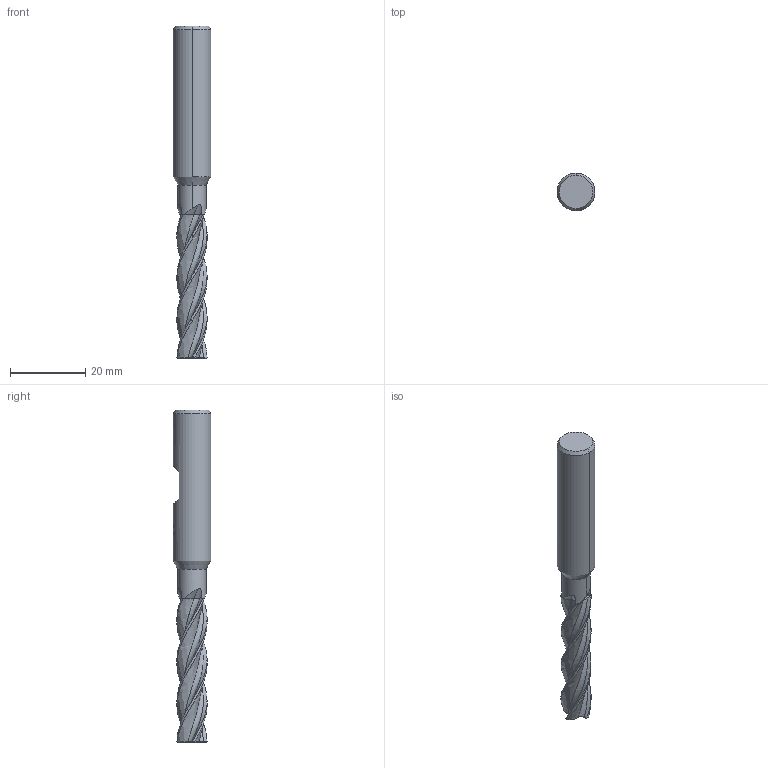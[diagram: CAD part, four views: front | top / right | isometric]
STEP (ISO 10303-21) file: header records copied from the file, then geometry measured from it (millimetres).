
FILE_DESCRIPTION(('no description'),'unknown implementation level');
FILE_NAME('solidNxIIPEa_vhJE0vrs0WZCocvBu1A_1.STP',' ',('CIMSOURCE GmbH'),('CADClick - KiM GmbH - www.kimweb.de'),'unknown preprocess','ACIS','unknown authorization');
FILE_SCHEMA(('automotive_design'));
Length unit declared in the file: millimetre
Products named in the file (2): NOCUT; CUT
Bounding box: 10 x 10 x 88 mm (x, y, z)
Volume: 4554.1 mm3; surface area: 3583.6 mm2
Topology: 2 solids, 2 shells, 131 faces, 372 edges, 244 vertices
Faces by surface type: bspline 48, cone 28, plane 27, cylinder 16, revolution 12
Entity records: 25438 total; most frequent: CARTESIAN_POINT 18359, STYLED_ITEM 749, PRESENTATION_STYLE_ASSIGNMENT 749, COLOUR_RGB 749, ORIENTED_EDGE 744, DIRECTION 402, EDGE_CURVE 372, CURVE_STYLE 372
